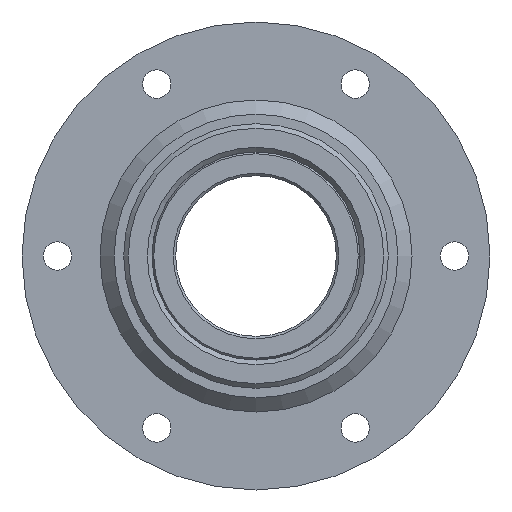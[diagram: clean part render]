
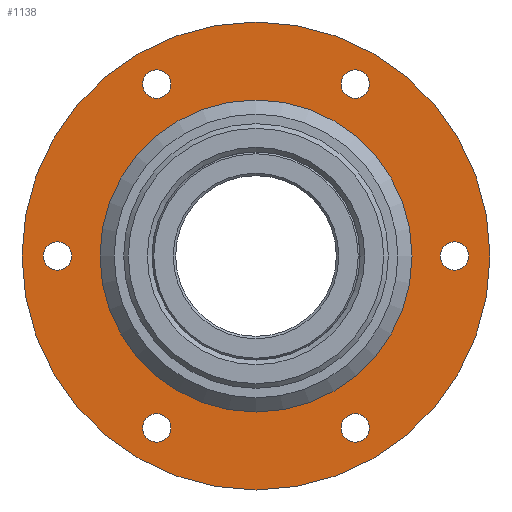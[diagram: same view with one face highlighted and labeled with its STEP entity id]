
A CAD part, front view. The second image highlights one B-rep face of the part: STEP entity #1138.
In plain terms, the highlighted planar face has unit normal (0, -1, 0).
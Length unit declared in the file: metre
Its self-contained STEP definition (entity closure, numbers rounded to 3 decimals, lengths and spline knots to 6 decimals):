
#1138=ADVANCED_FACE('',(#2131,#2132,#2133,#2134,#2135,#2136,#2137,#2138),#2139,.F.);
#2131=FACE_BOUND('',#4097,.T.);
#2132=FACE_BOUND('',#4098,.T.);
#2133=FACE_BOUND('',#4099,.T.);
#2134=FACE_BOUND('',#4100,.T.);
#2135=FACE_BOUND('',#4101,.T.);
#2136=FACE_BOUND('',#4102,.T.);
#2137=FACE_OUTER_BOUND('',#4103,.T.);
#2138=FACE_BOUND('',#4104,.T.);
#2139=PLANE('',#4105);
#4097=EDGE_LOOP('',(#5587));
#4098=EDGE_LOOP('',(#5588));
#4099=EDGE_LOOP('',(#5589));
#4100=EDGE_LOOP('',(#5590));
#4101=EDGE_LOOP('',(#5591));
#4102=EDGE_LOOP('',(#5592));
#4103=EDGE_LOOP('',(#5593));
#4104=EDGE_LOOP('',(#5594));
#4105=AXIS2_PLACEMENT_3D('',#5595,#5596,#5597);
#5587=ORIENTED_EDGE('',*,*,#5827,.T.);
#5588=ORIENTED_EDGE('',*,*,#5955,.T.);
#5589=ORIENTED_EDGE('',*,*,#5833,.T.);
#5590=ORIENTED_EDGE('',*,*,#5921,.T.);
#5591=ORIENTED_EDGE('',*,*,#5856,.T.);
#5592=ORIENTED_EDGE('',*,*,#5877,.T.);
#5593=ORIENTED_EDGE('',*,*,#5957,.F.);
#5594=ORIENTED_EDGE('',*,*,#5958,.T.);
#5595=CARTESIAN_POINT('',(0.045761,0.081166,0.0));
#5596=DIRECTION('',(0.0,1.0,0.0));
#5597=DIRECTION('',(0.0,0.0,1.0));
#5827=EDGE_CURVE('',#5985,#5985,#5986,.T.);
#5833=EDGE_CURVE('',#5995,#5995,#5996,.T.);
#5856=EDGE_CURVE('',#6036,#6036,#6037,.T.);
#5877=EDGE_CURVE('',#6071,#6071,#6072,.T.);
#5921=EDGE_CURVE('',#6133,#6133,#6134,.T.);
#5955=EDGE_CURVE('',#6181,#6181,#6182,.T.);
#5957=EDGE_CURVE('',#6184,#6184,#6185,.T.);
#5958=EDGE_CURVE('',#6186,#6186,#6187,.T.);
#5985=VERTEX_POINT('',#6217);
#5986=CIRCLE('',#6218,0.003);
#5995=VERTEX_POINT('',#6227);
#5996=CIRCLE('',#6228,0.003);
#6036=VERTEX_POINT('',#6277);
#6037=CIRCLE('',#6278,0.003);
#6071=VERTEX_POINT('',#6316);
#6072=CIRCLE('',#6317,0.003);
#6133=VERTEX_POINT('',#6407);
#6134=CIRCLE('',#6408,0.003);
#6181=VERTEX_POINT('',#6514);
#6182=CIRCLE('',#6515,0.003);
#6184=VERTEX_POINT('',#6517);
#6185=CIRCLE('',#6518,0.0495);
#6186=VERTEX_POINT('',#6519);
#6187=CIRCLE('',#6520,0.033);
#6217=CARTESIAN_POINT('',(0.057761,0.081166,0.039373));
#6218=AXIS2_PLACEMENT_3D('',#6553,#6554,#6555);
#6227=CARTESIAN_POINT('',(0.120761,0.081166,0.003));
#6228=AXIS2_PLACEMENT_3D('',#6565,#6566,#6567);
#6277=CARTESIAN_POINT('',(0.057761,0.081166,-0.033373));
#6278=AXIS2_PLACEMENT_3D('',#6607,#6608,#6609);
#6316=CARTESIAN_POINT('',(0.036761,0.081166,0.003));
#6317=AXIS2_PLACEMENT_3D('',#6644,#6645,#6646);
#6407=CARTESIAN_POINT('',(0.099761,0.081166,-0.033373));
#6408=AXIS2_PLACEMENT_3D('',#6702,#6703,#6704);
#6514=CARTESIAN_POINT('',(0.099761,0.081166,0.039373));
#6515=AXIS2_PLACEMENT_3D('',#6746,#6747,#6748);
#6517=CARTESIAN_POINT('',(0.078761,0.081166,0.0495));
#6518=AXIS2_PLACEMENT_3D('',#6749,#6750,#6751);
#6519=CARTESIAN_POINT('',(0.078761,0.081166,0.033));
#6520=AXIS2_PLACEMENT_3D('',#6752,#6753,#6754);
#6553=CARTESIAN_POINT('',(0.057761,0.081166,0.036373));
#6554=DIRECTION('',(0.0,1.0,0.0));
#6555=DIRECTION('',(0.0,0.0,1.0));
#6565=CARTESIAN_POINT('',(0.120761,0.081166,0.));
#6566=DIRECTION('',(0.0,1.0,0.0));
#6567=DIRECTION('',(0.0,0.0,1.0));
#6607=CARTESIAN_POINT('',(0.057761,0.081166,-0.036373));
#6608=DIRECTION('',(0.0,1.0,0.0));
#6609=DIRECTION('',(0.0,0.0,1.0));
#6644=CARTESIAN_POINT('',(0.036761,0.081166,0.0));
#6645=DIRECTION('',(0.0,1.0,0.0));
#6646=DIRECTION('',(0.0,0.0,1.0));
#6702=CARTESIAN_POINT('',(0.099761,0.081166,-0.036373));
#6703=DIRECTION('',(0.0,1.0,0.0));
#6704=DIRECTION('',(0.0,0.0,1.0));
#6746=CARTESIAN_POINT('',(0.099761,0.081166,0.036373));
#6747=DIRECTION('',(0.0,1.0,0.0));
#6748=DIRECTION('',(0.0,0.0,1.0));
#6749=CARTESIAN_POINT('',(0.078761,0.081166,0.0));
#6750=DIRECTION('',(0.0,1.0,0.0));
#6751=DIRECTION('',(0.0,0.0,1.0));
#6752=CARTESIAN_POINT('',(0.078761,0.081166,0.0));
#6753=DIRECTION('',(0.0,1.0,0.0));
#6754=DIRECTION('',(0.0,0.0,1.0));
